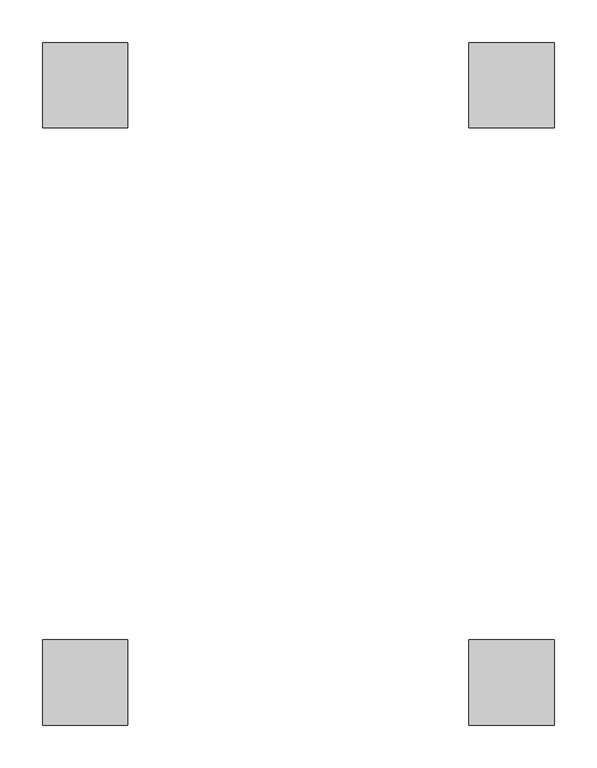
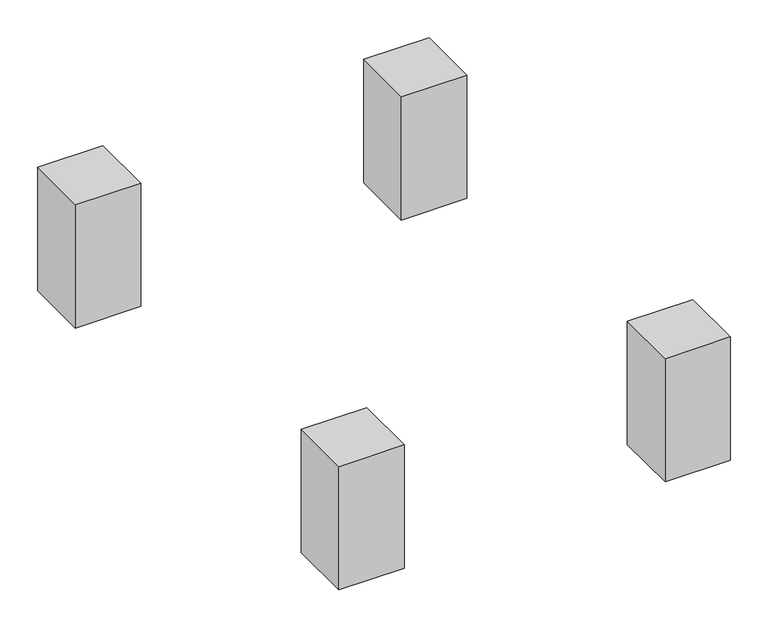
"""IFC4 building model written with IfcOpenShell, lengths in millimetres: electric distribution board geometry, DKC_Цоколь угловой элемент : DKC_Цоколь угловой элемент."""

from ifc_helpers import new_model, si_unit, origin, origin_with_axes, place, context, project, spatial, polyline, outline, extrude, source, transform, mapped, element, save


def electric_distribution_board_9c0d3578(model_context):
    return source(origin(), model_context, "Body", "SweptSolid", [
        extrude(outline(polyline([(-300.0, 0.0), (-200.0, 0.0), (-200.0, -100.0), (-300.0, -100.0), (-300.0, 0.0)])), origin_with_axes(), (0.0, 0.0, 1.0), 200.0),
        extrude(outline(polyline([(200.0, 0.0), (300.0, 0.0), (300.0, -100.0), (200.0, -100.0), (200.0, 0.0)])), origin_with_axes(), (0.0, 0.0, 1.0), 200.0),
        extrude(outline(polyline([(300.0, -800.0), (200.0, -800.0), (200.0, -700.0), (300.0, -700.0), (300.0, -800.0)])), origin_with_axes(), (0.0, 0.0, 1.0), 200.0),
        extrude(outline(polyline([(-300.0, -800.0), (-300.0, -700.0), (-200.0, -700.0), (-200.0, -800.0), (-300.0, -800.0)])), origin_with_axes(), (0.0, 0.0, 1.0), 200.0),
    ])


if __name__ == "__main__":
    model = new_model("IFC4")
    model_context = context("Model", 3, world=origin())
    ifc_project = project(units=[si_unit("LENGTHUNIT", "METRE", prefix="MILLI")], contexts=[model_context])
    site = spatial("IfcSite", under=ifc_project)
    building = spatial("IfcBuilding", under=site)
    placement = place(None, origin())
    electric_distribution_board_shape = electric_distribution_board_9c0d3578(model_context)
    element("IfcElectricDistributionBoard", 1, ObjectType="DKC_Цоколь угловой элемент : DKC_Цоколь угловой элемент", at=placement, inside=building, context=model_context, shape_type="MappedRepresentation", body=[
        mapped(electric_distribution_board_shape, transform((0.0, 0.0, 0.0), x_axis=(1.0, 0.0, 0.0), y_axis=(0.0, 1.0, 0.0), z_axis=(0.0, 0.0, 1.0))),
    ])
    save(model, "model.ifc")
